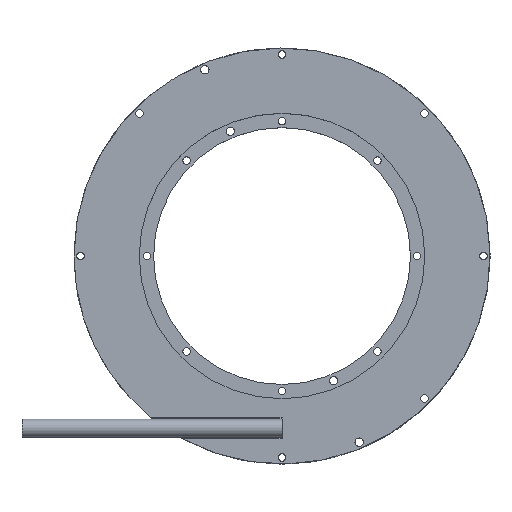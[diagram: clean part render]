
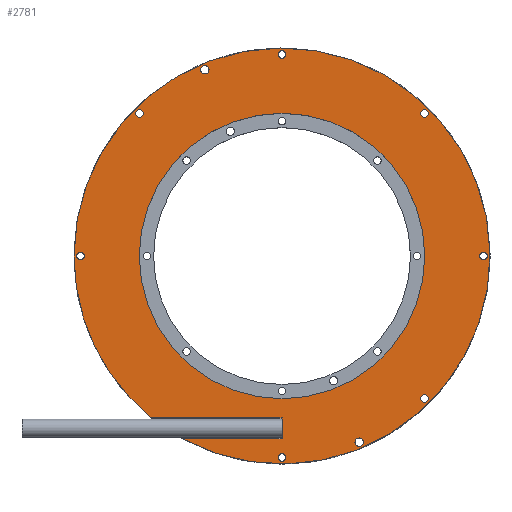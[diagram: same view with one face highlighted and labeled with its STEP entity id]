
A CAD part, top view. The second image highlights one B-rep face of the part: STEP entity #2781.
In plain terms, the highlighted planar face has unit normal (0, 0, 1) as drawn and (0, 0, -1) by its records, which use the part's own axes.
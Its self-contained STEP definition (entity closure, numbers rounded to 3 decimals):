
#2781=ADVANCED_FACE('',(#5611,#5613,#5615,#5617,#5619,#5621,#5623,#5625,#5627,#5629,
#5631),#5633,.F.);
#5611=FACE_BOUND('',#5612,.T.);
#5612=EDGE_LOOP('',(#8285,#8286,#8287,#8288,#8289));
#5613=FACE_BOUND('',#5614,.T.);
#5614=EDGE_LOOP('',(#8290));
#5615=FACE_BOUND('',#5616,.T.);
#5616=EDGE_LOOP('',(#8291));
#5617=FACE_BOUND('',#5618,.T.);
#5618=EDGE_LOOP('',(#8292));
#5619=FACE_BOUND('',#5620,.T.);
#5620=EDGE_LOOP('',(#8293));
#5621=FACE_BOUND('',#5622,.T.);
#5622=EDGE_LOOP('',(#8294));
#5623=FACE_BOUND('',#5624,.T.);
#5624=EDGE_LOOP('',(#8295));
#5625=FACE_BOUND('',#5626,.T.);
#5626=EDGE_LOOP('',(#8296));
#5627=FACE_BOUND('',#5628,.T.);
#5628=EDGE_LOOP('',(#8297));
#5629=FACE_BOUND('',#5630,.T.);
#5630=EDGE_LOOP('',(#8298));
#5631=FACE_BOUND('',#5632,.T.);
#5632=EDGE_LOOP('',(#8299));
#5633=PLANE('',#5634);
#5634=AXIS2_PLACEMENT_3D('',#5635,#5636,#5637);
#5635=CARTESIAN_POINT('',(0.,0.,0.));
#5636=DIRECTION('',(0.,0.,1.));
#5637=DIRECTION('',(-1.,0.,0.));
#8285=ORIENTED_EDGE('',*,*,#9694,.T.);
#8286=ORIENTED_EDGE('',*,*,#9688,.T.);
#8287=ORIENTED_EDGE('',*,*,#9695,.T.);
#8288=ORIENTED_EDGE('',*,*,#9696,.F.);
#8289=ORIENTED_EDGE('',*,*,#9697,.F.);
#8290=ORIENTED_EDGE('',*,*,#9698,.T.);
#8291=ORIENTED_EDGE('',*,*,#9699,.T.);
#8292=ORIENTED_EDGE('',*,*,#9700,.T.);
#8293=ORIENTED_EDGE('',*,*,#9701,.T.);
#8294=ORIENTED_EDGE('',*,*,#9702,.T.);
#8295=ORIENTED_EDGE('',*,*,#9703,.T.);
#8296=ORIENTED_EDGE('',*,*,#9704,.T.);
#8297=ORIENTED_EDGE('',*,*,#9705,.T.);
#8298=ORIENTED_EDGE('',*,*,#9706,.T.);
#8299=ORIENTED_EDGE('',*,*,#9707,.T.);
#9688=EDGE_CURVE('',#11698,#11699,#11700,.T.);
#9694=EDGE_CURVE('',#11710,#11698,#11711,.T.);
#9695=EDGE_CURVE('',#11699,#11712,#11713,.T.);
#9696=EDGE_CURVE('',#11714,#11712,#11715,.T.);
#9697=EDGE_CURVE('',#11710,#11714,#11716,.T.);
#9698=EDGE_CURVE('',#11717,#11717,#11718,.T.);
#9699=EDGE_CURVE('',#11719,#11719,#11720,.T.);
#9700=EDGE_CURVE('',#11721,#11721,#11722,.T.);
#9701=EDGE_CURVE('',#11723,#11723,#11724,.T.);
#9702=EDGE_CURVE('',#11725,#11725,#11726,.T.);
#9703=EDGE_CURVE('',#11727,#11727,#11728,.T.);
#9704=EDGE_CURVE('',#11729,#11729,#11730,.T.);
#9705=EDGE_CURVE('',#11731,#11731,#11732,.T.);
#9706=EDGE_CURVE('',#11733,#11733,#11734,.T.);
#9707=EDGE_CURVE('',#11735,#11735,#11736,.T.);
#11698=VERTEX_POINT('',#16426);
#11699=VERTEX_POINT('',#16427);
#11700=LINE('',#16428,#16429);
#11710=VERTEX_POINT('',#16452);
#11711=LINE('',#16453,#16454);
#11712=VERTEX_POINT('',#16456);
#11713=LINE('',#16457,#16458);
#11714=VERTEX_POINT('',#16460);
#11715=CIRCLE('',#16461,80.);
#11716=CIRCLE('',#16465,80.);
#11717=VERTEX_POINT('',#16469);
#11718=CIRCLE('',#16470,1.45);
#11719=VERTEX_POINT('',#16474);
#11720=CIRCLE('',#16475,1.45);
#11721=VERTEX_POINT('',#16479);
#11722=CIRCLE('',#16480,1.45);
#11723=VERTEX_POINT('',#16484);
#11724=CIRCLE('',#16485,1.45);
#11725=VERTEX_POINT('',#16489);
#11726=CIRCLE('',#16490,1.45);
#11727=VERTEX_POINT('',#16494);
#11728=CIRCLE('',#16495,1.45);
#11729=VERTEX_POINT('',#16499);
#11730=CIRCLE('',#16500,1.45);
#11731=VERTEX_POINT('',#16504);
#11732=CIRCLE('',#16505,1.6);
#11733=VERTEX_POINT('',#16509);
#11734=CIRCLE('',#16510,1.6);
#11735=VERTEX_POINT('',#16514);
#11736=CIRCLE('',#16515,54.9);
#16426=CARTESIAN_POINT('',(0.,62.3,0.));
#16427=CARTESIAN_POINT('',(0.,70.3,0.));
#16428=CARTESIAN_POINT('',(0.,62.3,0.));
#16429=VECTOR('',#16430,1.);
#16430=DIRECTION('',(0.,1.,0.));
#16452=CARTESIAN_POINT('',(-50.187,62.3,0.));
#16453=CARTESIAN_POINT('',(-50.187,62.3,0.));
#16454=VECTOR('',#16455,1.);
#16455=DIRECTION('',(1.,0.,0.));
#16456=CARTESIAN_POINT('',(-38.183,70.3,0.));
#16457=CARTESIAN_POINT('',(0.,70.3,0.));
#16458=VECTOR('',#16459,1.);
#16459=DIRECTION('',(-1.,0.,0.));
#16460=CARTESIAN_POINT('',(-80.,0.,0.));
#16461=AXIS2_PLACEMENT_3D('',#16462,#16463,#16464);
#16462=CARTESIAN_POINT('',(0.,0.,0.));
#16463=DIRECTION('',(0.,0.,1.));
#16464=DIRECTION('',(-1.,0.,0.));
#16465=AXIS2_PLACEMENT_3D('',#16466,#16467,#16468);
#16466=CARTESIAN_POINT('',(0.,0.,0.));
#16467=DIRECTION('',(0.,0.,1.));
#16468=DIRECTION('',(-0.627,0.779,0.));
#16469=CARTESIAN_POINT('',(-78.95,0.,0.));
#16470=AXIS2_PLACEMENT_3D('',#16471,#16472,#16473);
#16471=CARTESIAN_POINT('',(-77.5,0.,0.));
#16472=DIRECTION('',(0.,0.,1.));
#16473=DIRECTION('',(-1.,0.,0.));
#16474=CARTESIAN_POINT('',(76.05,0.,0.));
#16475=AXIS2_PLACEMENT_3D('',#16476,#16477,#16478);
#16476=CARTESIAN_POINT('',(77.5,0.,0.));
#16477=DIRECTION('',(0.,0.,1.));
#16478=DIRECTION('',(-1.,0.,0.));
#16479=CARTESIAN_POINT('',(-1.45,77.5,0.));
#16480=AXIS2_PLACEMENT_3D('',#16481,#16482,#16483);
#16481=CARTESIAN_POINT('',(0.,77.5,0.));
#16482=DIRECTION('',(0.,0.,1.));
#16483=DIRECTION('',(-1.,0.,0.));
#16484=CARTESIAN_POINT('',(-1.45,-77.5,0.));
#16485=AXIS2_PLACEMENT_3D('',#16486,#16487,#16488);
#16486=CARTESIAN_POINT('',(0.,-77.5,0.));
#16487=DIRECTION('',(0.,0.,1.));
#16488=DIRECTION('',(-1.,0.,0.));
#16489=CARTESIAN_POINT('',(53.351,54.801,0.));
#16490=AXIS2_PLACEMENT_3D('',#16491,#16492,#16493);
#16491=CARTESIAN_POINT('',(54.801,54.801,0.));
#16492=DIRECTION('',(0.,0.,1.));
#16493=DIRECTION('',(-1.,0.,0.));
#16494=CARTESIAN_POINT('',(-56.251,-54.801,0.));
#16495=AXIS2_PLACEMENT_3D('',#16496,#16497,#16498);
#16496=CARTESIAN_POINT('',(-54.801,-54.801,0.));
#16497=DIRECTION('',(0.,0.,1.));
#16498=DIRECTION('',(-1.,0.,0.));
#16499=CARTESIAN_POINT('',(53.351,-54.801,0.));
#16500=AXIS2_PLACEMENT_3D('',#16501,#16502,#16503);
#16501=CARTESIAN_POINT('',(54.801,-54.801,0.));
#16502=DIRECTION('',(0.,0.,1.));
#16503=DIRECTION('',(-1.,0.,0.));
#16504=CARTESIAN_POINT('',(-31.258,-71.601,0.));
#16505=AXIS2_PLACEMENT_3D('',#16506,#16507,#16508);
#16506=CARTESIAN_POINT('',(-29.658,-71.601,0.));
#16507=DIRECTION('',(0.,0.,1.));
#16508=DIRECTION('',(-1.,0.,0.));
#16509=CARTESIAN_POINT('',(28.058,71.601,0.));
#16510=AXIS2_PLACEMENT_3D('',#16511,#16512,#16513);
#16511=CARTESIAN_POINT('',(29.658,71.601,0.));
#16512=DIRECTION('',(0.,0.,1.));
#16513=DIRECTION('',(-1.,0.,0.));
#16514=CARTESIAN_POINT('',(-54.9,0.,0.));
#16515=AXIS2_PLACEMENT_3D('',#16516,#16517,#16518);
#16516=CARTESIAN_POINT('',(0.,0.,0.));
#16517=DIRECTION('',(0.,0.,1.));
#16518=DIRECTION('',(-1.,0.,0.));
